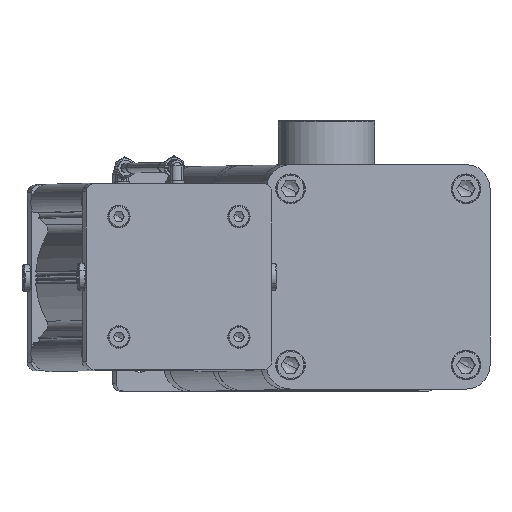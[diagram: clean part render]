
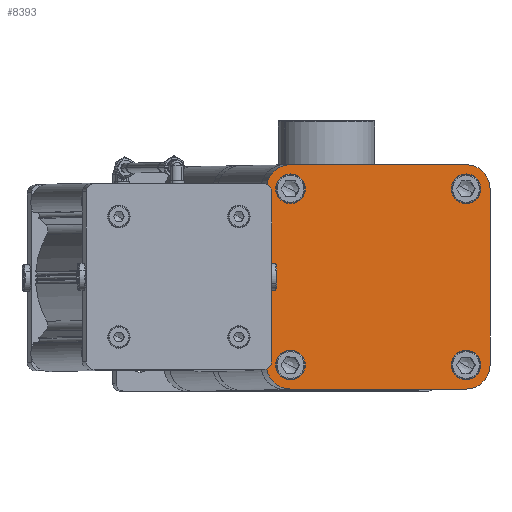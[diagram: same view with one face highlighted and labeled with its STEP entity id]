
A CAD part, top view. The second image highlights one B-rep face of the part: STEP entity #8393.
In plain terms, the highlighted planar face has unit normal (0.087, 0, 0.996) as drawn and (0, 0, 1) by its records, which use the part's own axes.
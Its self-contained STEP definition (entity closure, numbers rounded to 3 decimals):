
#8047=CARTESIAN_POINT('Axis2P3D Location',(-55.,55.,962.)) ;
#8051=CARTESIAN_POINT('Vertex',(-70.,55.,962.)) ;
#8053=CARTESIAN_POINT('Vertex',(-55.,70.,962.)) ;
#8093=CARTESIAN_POINT('Vertex',(55.,70.,962.)) ;
#8101=CARTESIAN_POINT('Line Origine',(0.,70.,962.)) ;
#8118=CARTESIAN_POINT('Axis2P3D Location',(55.,55.,962.)) ;
#8122=CARTESIAN_POINT('Vertex',(70.,55.,962.)) ;
#8155=CARTESIAN_POINT('Vertex',(70.,-55.,962.)) ;
#8163=CARTESIAN_POINT('Line Origine',(70.,0.,962.)) ;
#8180=CARTESIAN_POINT('Axis2P3D Location',(55.,-55.,962.)) ;
#8184=CARTESIAN_POINT('Vertex',(55.,-70.,962.)) ;
#8217=CARTESIAN_POINT('Vertex',(-70.,-55.,962.)) ;
#8220=CARTESIAN_POINT('Line Origine',(-70.,0.,962.)) ;
#8248=CARTESIAN_POINT('Vertex',(-55.,-70.,962.)) ;
#8256=CARTESIAN_POINT('Line Origine',(0.,-70.,962.)) ;
#8294=CARTESIAN_POINT('Axis2P3D Location',(-55.,-55.,962.)) ;
#8306=CARTESIAN_POINT('Axis2P3D Location',(0.,0.,962.)) ;
#8321=CARTESIAN_POINT('Axis2P3D Location',(55.,55.,962.)) ;
#8325=CARTESIAN_POINT('Vertex',(64.25,55.,962.)) ;
#8327=CARTESIAN_POINT('Vertex',(45.75,55.,962.)) ;
#8330=CARTESIAN_POINT('Axis2P3D Location',(55.,55.,962.)) ;
#8339=CARTESIAN_POINT('Axis2P3D Location',(-55.,55.,962.)) ;
#8343=CARTESIAN_POINT('Vertex',(-45.75,55.,962.)) ;
#8345=CARTESIAN_POINT('Vertex',(-64.25,55.,962.)) ;
#8348=CARTESIAN_POINT('Axis2P3D Location',(-55.,55.,962.)) ;
#8357=CARTESIAN_POINT('Axis2P3D Location',(-55.,-55.,962.)) ;
#8361=CARTESIAN_POINT('Vertex',(-45.75,-55.,962.)) ;
#8363=CARTESIAN_POINT('Vertex',(-64.25,-55.,962.)) ;
#8366=CARTESIAN_POINT('Axis2P3D Location',(-55.,-55.,962.)) ;
#8375=CARTESIAN_POINT('Axis2P3D Location',(55.,-55.,962.)) ;
#8379=CARTESIAN_POINT('Vertex',(64.25,-55.,962.)) ;
#8381=CARTESIAN_POINT('Vertex',(45.75,-55.,962.)) ;
#8384=CARTESIAN_POINT('Axis2P3D Location',(55.,-55.,962.)) ;
#8048=DIRECTION('Axis2P3D Direction',(0.,0.,1.)) ;
#8102=DIRECTION('Vector Direction',(1.,0.,0.)) ;
#8119=DIRECTION('Axis2P3D Direction',(0.,-0.,1.)) ;
#8164=DIRECTION('Vector Direction',(0.,-1.,0.)) ;
#8181=DIRECTION('Axis2P3D Direction',(0.,0.,1.)) ;
#8221=DIRECTION('Vector Direction',(0.,1.,0.)) ;
#8257=DIRECTION('Vector Direction',(-1.,0.,0.)) ;
#8295=DIRECTION('Axis2P3D Direction',(0.,0.,1.)) ;
#8307=DIRECTION('Axis2P3D Direction',(0.,0.,1.)) ;
#8308=DIRECTION('Axis2P3D XDirection',(1.,0.,0.)) ;
#8322=DIRECTION('Axis2P3D Direction',(0.,0.,1.)) ;
#8331=DIRECTION('Axis2P3D Direction',(0.,0.,1.)) ;
#8340=DIRECTION('Axis2P3D Direction',(0.,0.,1.)) ;
#8349=DIRECTION('Axis2P3D Direction',(0.,0.,1.)) ;
#8358=DIRECTION('Axis2P3D Direction',(0.,0.,1.)) ;
#8367=DIRECTION('Axis2P3D Direction',(0.,0.,1.)) ;
#8376=DIRECTION('Axis2P3D Direction',(0.,0.,1.)) ;
#8385=DIRECTION('Axis2P3D Direction',(0.,0.,1.)) ;
#8049=AXIS2_PLACEMENT_3D('Circle Axis2P3D',#8047,#8048,$) ;
#8120=AXIS2_PLACEMENT_3D('Circle Axis2P3D',#8118,#8119,$) ;
#8182=AXIS2_PLACEMENT_3D('Circle Axis2P3D',#8180,#8181,$) ;
#8296=AXIS2_PLACEMENT_3D('Circle Axis2P3D',#8294,#8295,$) ;
#8309=AXIS2_PLACEMENT_3D('Plane Axis2P3D',#8306,#8307,#8308) ;
#8323=AXIS2_PLACEMENT_3D('Circle Axis2P3D',#8321,#8322,$) ;
#8332=AXIS2_PLACEMENT_3D('Circle Axis2P3D',#8330,#8331,$) ;
#8341=AXIS2_PLACEMENT_3D('Circle Axis2P3D',#8339,#8340,$) ;
#8350=AXIS2_PLACEMENT_3D('Circle Axis2P3D',#8348,#8349,$) ;
#8359=AXIS2_PLACEMENT_3D('Circle Axis2P3D',#8357,#8358,$) ;
#8368=AXIS2_PLACEMENT_3D('Circle Axis2P3D',#8366,#8367,$) ;
#8377=AXIS2_PLACEMENT_3D('Circle Axis2P3D',#8375,#8376,$) ;
#8386=AXIS2_PLACEMENT_3D('Circle Axis2P3D',#8384,#8385,$) ;
#8312=ORIENTED_EDGE('',*,*,#8260,.T.) ;
#8313=ORIENTED_EDGE('',*,*,#8186,.F.) ;
#8314=ORIENTED_EDGE('',*,*,#8167,.T.) ;
#8315=ORIENTED_EDGE('',*,*,#8124,.F.) ;
#8316=ORIENTED_EDGE('',*,*,#8105,.T.) ;
#8317=ORIENTED_EDGE('',*,*,#8055,.F.) ;
#8318=ORIENTED_EDGE('',*,*,#8224,.T.) ;
#8319=ORIENTED_EDGE('',*,*,#8298,.F.) ;
#8336=ORIENTED_EDGE('',*,*,#8329,.F.) ;
#8337=ORIENTED_EDGE('',*,*,#8334,.F.) ;
#8354=ORIENTED_EDGE('',*,*,#8347,.F.) ;
#8355=ORIENTED_EDGE('',*,*,#8352,.F.) ;
#8372=ORIENTED_EDGE('',*,*,#8365,.F.) ;
#8373=ORIENTED_EDGE('',*,*,#8370,.F.) ;
#8390=ORIENTED_EDGE('',*,*,#8383,.F.) ;
#8391=ORIENTED_EDGE('',*,*,#8388,.F.) ;
#8338=FACE_BOUND('',#8335,.T.) ;
#8356=FACE_BOUND('',#8353,.T.) ;
#8374=FACE_BOUND('',#8371,.T.) ;
#8392=FACE_BOUND('',#8389,.T.) ;
#8103=VECTOR('Line Direction',#8102,1.) ;
#8165=VECTOR('Line Direction',#8164,1.) ;
#8222=VECTOR('Line Direction',#8221,1.) ;
#8258=VECTOR('Line Direction',#8257,1.) ;
#8393=ADVANCED_FACE('PartBody',(#8320,#8338,#8356,#8374,#8392),#8310,.T.) ;
#8050=CIRCLE('generated circle',#8049,15.) ;
#8121=CIRCLE('generated circle',#8120,15.) ;
#8183=CIRCLE('generated circle',#8182,15.) ;
#8297=CIRCLE('generated circle',#8296,15.) ;
#8324=CIRCLE('generated circle',#8323,9.25) ;
#8333=CIRCLE('generated circle',#8332,9.25) ;
#8342=CIRCLE('generated circle',#8341,9.25) ;
#8351=CIRCLE('generated circle',#8350,9.25) ;
#8360=CIRCLE('generated circle',#8359,9.25) ;
#8369=CIRCLE('generated circle',#8368,9.25) ;
#8378=CIRCLE('generated circle',#8377,9.25) ;
#8387=CIRCLE('generated circle',#8386,9.25) ;
#8055=EDGE_CURVE('',#8052,#8054,#8050,.F.) ;
#8105=EDGE_CURVE('',#8094,#8054,#8104,.F.) ;
#8124=EDGE_CURVE('',#8094,#8123,#8121,.F.) ;
#8167=EDGE_CURVE('',#8156,#8123,#8166,.F.) ;
#8186=EDGE_CURVE('',#8156,#8185,#8183,.F.) ;
#8224=EDGE_CURVE('',#8052,#8218,#8223,.F.) ;
#8260=EDGE_CURVE('',#8249,#8185,#8259,.F.) ;
#8298=EDGE_CURVE('',#8249,#8218,#8297,.F.) ;
#8329=EDGE_CURVE('',#8326,#8328,#8324,.T.) ;
#8334=EDGE_CURVE('',#8328,#8326,#8333,.T.) ;
#8347=EDGE_CURVE('',#8344,#8346,#8342,.T.) ;
#8352=EDGE_CURVE('',#8346,#8344,#8351,.T.) ;
#8365=EDGE_CURVE('',#8362,#8364,#8360,.T.) ;
#8370=EDGE_CURVE('',#8364,#8362,#8369,.T.) ;
#8383=EDGE_CURVE('',#8380,#8382,#8378,.T.) ;
#8388=EDGE_CURVE('',#8382,#8380,#8387,.T.) ;
#8311=EDGE_LOOP('',(#8312,#8313,#8314,#8315,#8316,#8317,#8318,#8319)) ;
#8335=EDGE_LOOP('',(#8336,#8337)) ;
#8353=EDGE_LOOP('',(#8354,#8355)) ;
#8371=EDGE_LOOP('',(#8372,#8373)) ;
#8389=EDGE_LOOP('',(#8390,#8391)) ;
#8320=FACE_OUTER_BOUND('',#8311,.T.) ;
#8104=LINE('Line',#8101,#8103) ;
#8166=LINE('Line',#8163,#8165) ;
#8223=LINE('Line',#8220,#8222) ;
#8259=LINE('Line',#8256,#8258) ;
#8310=PLANE('',#8309) ;
#8052=VERTEX_POINT('',#8051) ;
#8054=VERTEX_POINT('',#8053) ;
#8094=VERTEX_POINT('',#8093) ;
#8123=VERTEX_POINT('',#8122) ;
#8156=VERTEX_POINT('',#8155) ;
#8185=VERTEX_POINT('',#8184) ;
#8218=VERTEX_POINT('',#8217) ;
#8249=VERTEX_POINT('',#8248) ;
#8326=VERTEX_POINT('',#8325) ;
#8328=VERTEX_POINT('',#8327) ;
#8344=VERTEX_POINT('',#8343) ;
#8346=VERTEX_POINT('',#8345) ;
#8362=VERTEX_POINT('',#8361) ;
#8364=VERTEX_POINT('',#8363) ;
#8380=VERTEX_POINT('',#8379) ;
#8382=VERTEX_POINT('',#8381) ;
